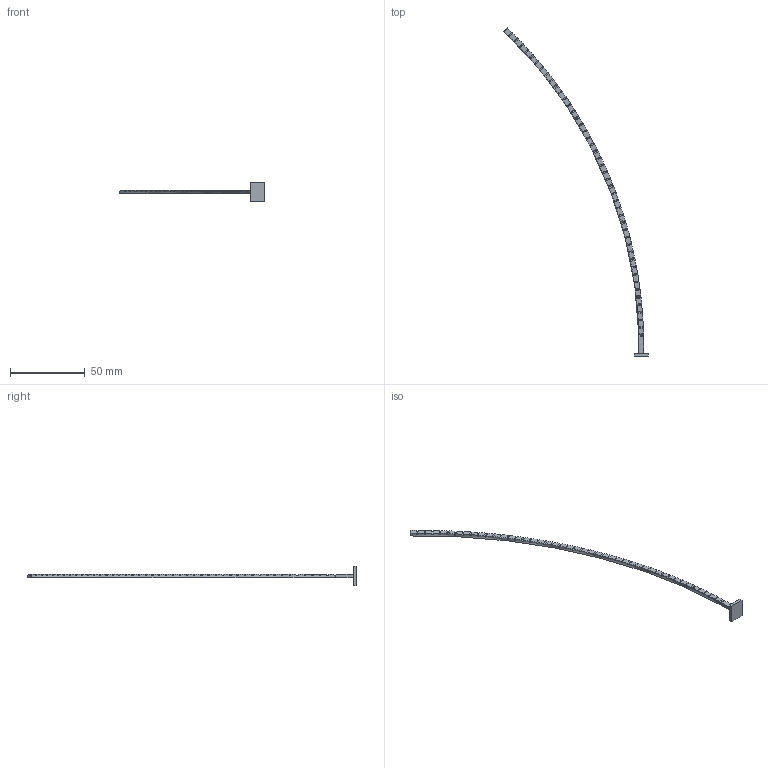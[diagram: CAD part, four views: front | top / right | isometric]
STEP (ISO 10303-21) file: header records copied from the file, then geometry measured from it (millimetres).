
FILE_DESCRIPTION (( 'STEP AP214' ), '1' );
FILE_NAME ('Protractor.STEP', '2021-11-17T20:30:49', ( '' ), ( '' ), 'SwSTEP 2.0', 'SolidWorks 2021', '' );
FILE_SCHEMA (( 'AUTOMOTIVE_DESIGN' ));
Length unit declared in the file: inch
Products named in the file (1): Protractor
Bounding box: 96.58 x 219.02 x 12.7 mm (x, y, z)
Volume: 1840.3 mm3; surface area: 3081.5 mm2
Topology: 1 solids, 1 shells, 239 faces, 708 edges, 472 vertices
Faces by surface type: plane 147, cylinder 92
Entity records: 8492 total; most frequent: CARTESIAN_POINT 2424, ORIENTED_EDGE 1416, DIRECTION 1066, EDGE_CURVE 708, VERTEX_POINT 472, VECTOR 398, LINE 398, AXIS2_PLACEMENT_3D 334
